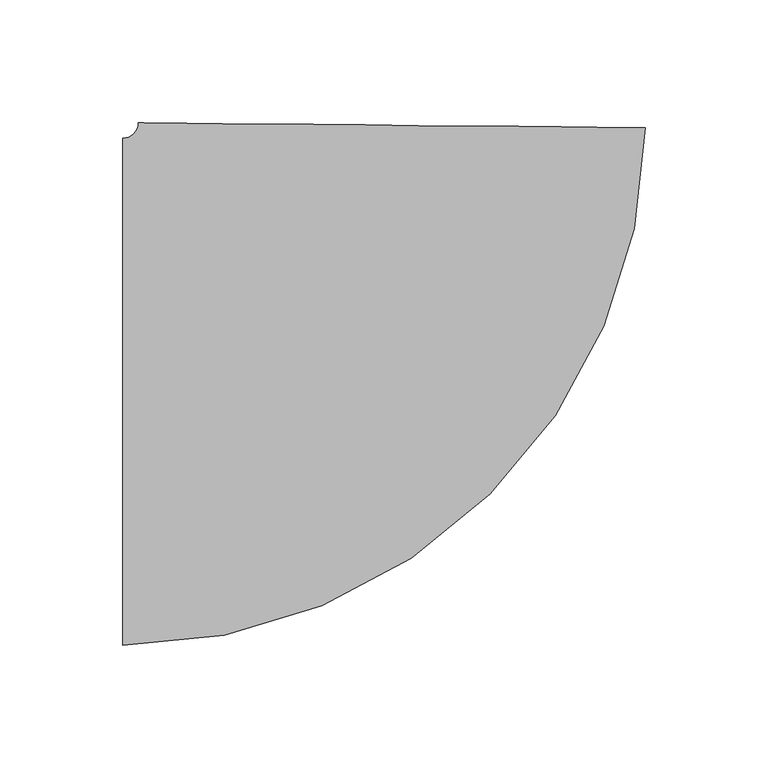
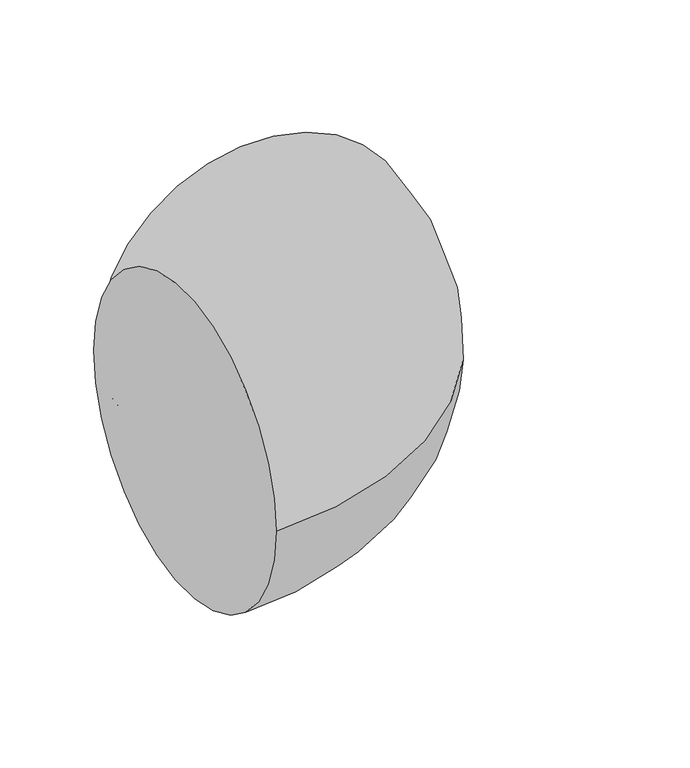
"""IFC4 building model written with IfcOpenShell, lengths in millimetres: pipe fitting geometry, M_Codo - Genérico : Estándar."""

from ifc_helpers import new_model, si_unit, point, frame, origin, place, context, project, spatial, circle_curve, ellipse_curve, trimmed, source, transform, mapped, element, save
from ifc_brep_helpers import plane_surface, revolved_surface, advanced_brep


def pipe_fitting_e18e9340(model_context):
    return source(origin(), model_context, "Body", "AdvancedBrep", [
        advanced_brep(
        [(-108.4798579, -103.1875, 0.0), (-108.4798579, 103.1875, 0.0), (104.2351298, 107.4736127, 0.0), (-102.1301567, 109.4758914, 0.0)],
        [
            (0, 1, circle_curve(frame((-108.4798579, 0.0, 0.0), z_axis=(-1.0, 0.0, 0.0), x_axis=(0.0, 1.0, 0.0)), 103.1875)),
            (1, 0, circle_curve(frame((-108.4798579, 0.0, 0.0), z_axis=(-1.0, 0.0, 0.0), x_axis=(0.0, 1.0, 0.0)), 103.1875)),
            (2, 3, circle_curve(frame((1.0524865, 108.4747521, 0.0), z_axis=(0.009702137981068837, 0.999952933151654, 0.0), x_axis=(-0.999952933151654, 0.009702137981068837, 0.0)), 103.1875)),
            (3, 2, circle_curve(frame((1.0524865, 108.4747521, 0.0), z_axis=(0.009702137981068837, 0.999952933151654, 0.0), x_axis=(-0.999952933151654, 0.009702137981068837, 0.0)), 103.1875)),
            (3, 1, circle_curve(frame((-108.4798579, 109.5375, 0.0), z_axis=(0.0, 0.0, -1.0), x_axis=(0.0, -1.0, 0.0)), 6.35)),
            (0, 2, circle_curve(frame((-108.4798579, 109.5375, 0.0), z_axis=(0.0, 0.0, 1.0), x_axis=(0.0, -1.0, 0.0)), 212.725)),
        ],
        [
            plane_surface(frame((-108.4798579, 0.0, 0.0), z_axis=(-1.0, 0.0, 0.0), x_axis=(0.0, 0.0, 1.0))),
            plane_surface(frame((1.0524865, 108.4747521, 0.0), z_axis=(0.009702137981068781, 0.9999529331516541, 0.0), x_axis=(0.0, 0.0, 1.0))),
            revolved_surface(trimmed(ellipse_curve(frame((-108.4798579, 0.0, 0.0), z_axis=(-1.0, 0.0, 0.0), x_axis=(0.0, 1.0, 0.0)), 103.1875, 103.1875), [point((-108.4798579, -103.1875, 0.0))], [point((-108.4798579, 103.1875, 0.0))], True, "CARTESIAN"), (-108.4798579, 109.5375, 0.0), (0.0, 0.0, 1.0)),
            revolved_surface(trimmed(ellipse_curve(frame((-108.4798579, 0.0, 0.0), z_axis=(-1.0, 0.0, 0.0), x_axis=(0.0, 1.0, 0.0)), 103.1875, 103.1875), [point((-108.4798579, 103.1875, 0.0))], [point((-108.4798579, -103.1875, 0.0))], True, "CARTESIAN"), (-108.4798579, 109.5375, 0.0), (0.0, 0.0, 1.0)),
        ],
        [
            (0, [[1, 2]]),
            (1, [[3, 4]]),
            (2, [[5, -1, 6, -4]]),
            (3, [[-6, -2, -5, -3]]),
        ],
    ),
    ])


if __name__ == "__main__":
    model = new_model("IFC4")
    model_context = context("Model", 3, world=origin())
    ifc_project = project(units=[si_unit("LENGTHUNIT", "METRE", prefix="MILLI")], contexts=[model_context])
    site = spatial("IfcSite", under=ifc_project)
    building = spatial("IfcBuilding", under=site)
    placement = place(None, origin())
    pipe_fitting_shape = pipe_fitting_e18e9340(model_context)
    element("IfcPipeFitting", 1, ObjectType="M_Codo - Genérico : Estándar", at=placement, inside=building, context=model_context, shape_type="MappedRepresentation", body=[
        mapped(pipe_fitting_shape, transform((0.0, 0.0, 0.0), x_axis=(1.0, 0.0, 0.0), y_axis=(0.0, 1.0, 0.0), z_axis=(0.0, 0.0, 1.0))),
    ])
    save(model, "model.ifc")
